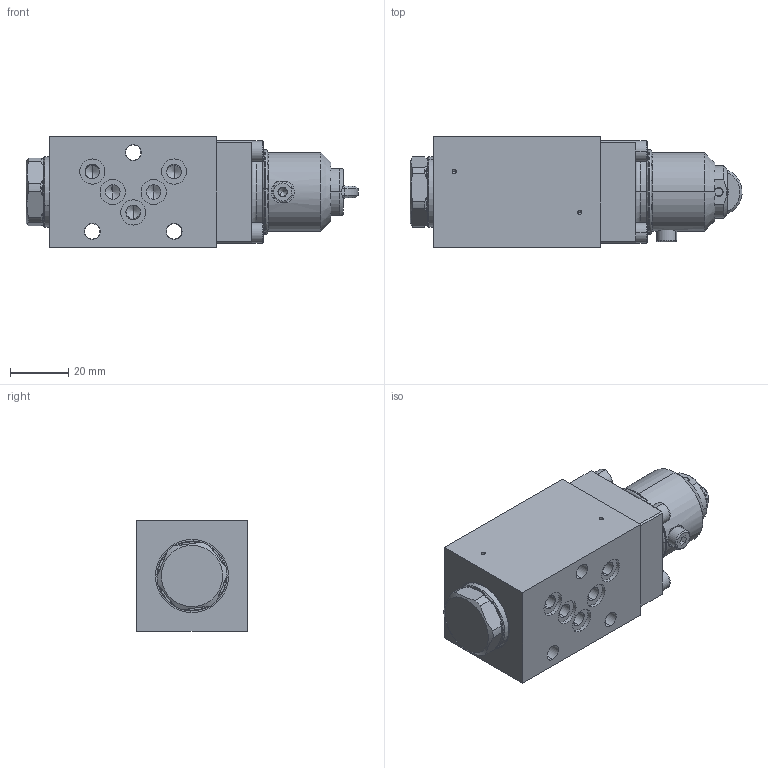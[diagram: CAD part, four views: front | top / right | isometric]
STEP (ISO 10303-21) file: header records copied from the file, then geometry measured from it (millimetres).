
FILE_DESCRIPTION (( 'STEP AP214' ), '1' );
FILE_NAME ('WDTFA04-4_2-Bside.STEP', '2019-06-26T11:16:26', ( '' ), ( '' ), 'SwSTEP 2.0', 'SolidWorks 2018', '' );
FILE_SCHEMA (( 'AUTOMOTIVE_DESIGN' ));
Length unit declared in the file: millimetre
Products named in the file (1): WDTFA04-4_2-Bside
Bounding box: 113.67 x 38 x 38 mm (x, y, z)
Volume: 112253.7 mm3; surface area: 24234.3 mm2
Topology: 5 solids, 11 shells, 510 faces, 1213 edges, 742 vertices
Faces by surface type: plane 205, cylinder 150, cone 81, torus 42, bspline 32
Entity records: 22340 total; most frequent: CARTESIAN_POINT 5130, DIRECTION 2439, ORIENTED_EDGE 2362, EDGE_CURVE 1181, AXIS2_PLACEMENT_3D 935, VERTEX_POINT 742, EDGE_LOOP 585, VECTOR 569
